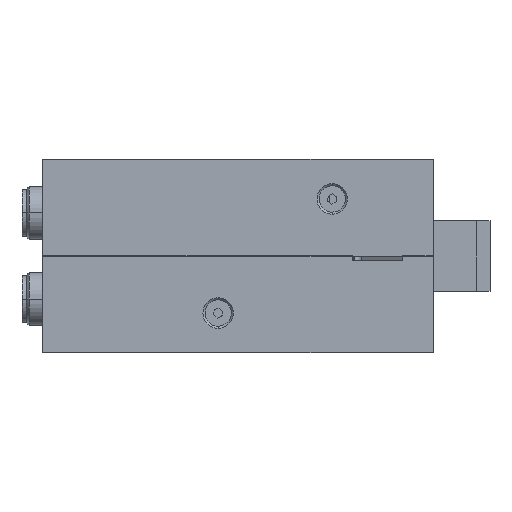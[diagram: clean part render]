
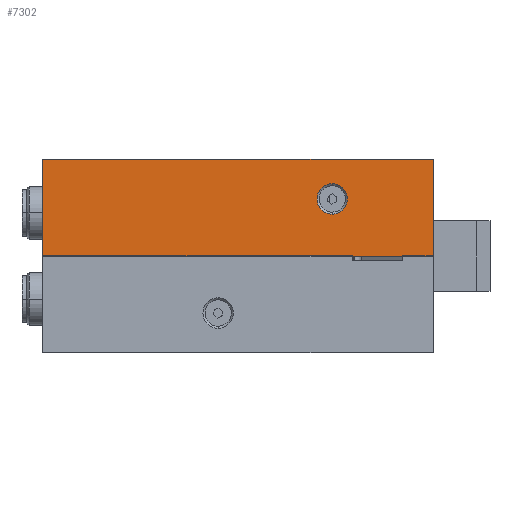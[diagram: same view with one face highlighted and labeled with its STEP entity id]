
A CAD part, front view. The second image highlights one B-rep face of the part: STEP entity #7302.
In plain terms, the highlighted planar face has unit normal (0, -1, 0).
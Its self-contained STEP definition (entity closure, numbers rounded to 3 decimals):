
#57 = DIRECTION ( 'NONE',  ( 1., 0., 0. ) ) ;
#767 = VECTOR ( 'NONE', #57, 1000. ) ;
#993 = VERTEX_POINT ( 'NONE', #11025 ) ;
#1017 = CARTESIAN_POINT ( 'NONE',  ( -54., -57.5, 33. ) ) ;
#1029 = CARTESIAN_POINT ( 'NONE',  ( 12., -57.5, 20.53 ) ) ;
#1660 = CARTESIAN_POINT ( 'NONE',  ( -54., -57.5, 11. ) ) ;
#2769 = LINE ( 'NONE', #1017, #767 ) ;
#2791 = ORIENTED_EDGE ( 'NONE', *, *, #10396, .T. ) ;
#3098 = ORIENTED_EDGE ( 'NONE', *, *, #12561, .F. ) ;
#3640 = PLANE ( 'NONE',  #7742 ) ;
#3719 = ORIENTED_EDGE ( 'NONE', *, *, #6435, .F. ) ;
#3887 = CARTESIAN_POINT ( 'NONE',  ( -54., -57.5, 33. ) ) ;
#4050 = CARTESIAN_POINT ( 'NONE',  ( 12., -57.5, 24. ) ) ;
#4226 = CIRCLE ( 'NONE', #9197, 3.47 ) ;
#4617 = DIRECTION ( 'NONE',  ( 0., 0., -1. ) ) ;
#4639 = VECTOR ( 'NONE', #8492, 1000. ) ;
#5050 = DIRECTION ( 'NONE',  ( 0., -1., 0. ) ) ;
#5216 = EDGE_LOOP ( 'NONE', ( #12504, #3098 ) ) ;
#5297 = DIRECTION ( 'NONE',  ( 0., -1., 0. ) ) ;
#5504 = CARTESIAN_POINT ( 'NONE',  ( -54., -57.5, 33. ) ) ;
#5594 = CIRCLE ( 'NONE', #8750, 3.47 ) ;
#5706 = VECTOR ( 'NONE', #4617, 1000. ) ;
#6145 = CARTESIAN_POINT ( 'NONE',  ( 12., -57.5, 24. ) ) ;
#6297 = VERTEX_POINT ( 'NONE', #9375 ) ;
#6322 = CARTESIAN_POINT ( 'NONE',  ( 35., -57.5, 33. ) ) ;
#6435 = EDGE_CURVE ( 'NONE', #11414, #8822, #9700, .T. ) ;
#6520 = VERTEX_POINT ( 'NONE', #6677 ) ;
#6563 = EDGE_CURVE ( 'NONE', #10611, #6297, #4226, .T. ) ;
#6626 = FACE_BOUND ( 'NONE', #5216, .T. ) ;
#6677 = CARTESIAN_POINT ( 'NONE',  ( -54., -57.5, 33. ) ) ;
#6779 = LINE ( 'NONE', #5504, #5706 ) ;
#7281 = EDGE_LOOP ( 'NONE', ( #3719, #9826, #2791, #11790 ) ) ;
#7302 = ADVANCED_FACE ( 'NONE', ( #6626, #7839 ), #3640, .F. ) ;
#7701 = CARTESIAN_POINT ( 'NONE',  ( 35., -57.5, 33. ) ) ;
#7742 = AXIS2_PLACEMENT_3D ( 'NONE', #3887, #10654, #7876 ) ;
#7839 = FACE_OUTER_BOUND ( 'NONE', #7281, .T. ) ;
#7876 = DIRECTION ( 'NONE',  ( 0., 0., 1. ) ) ;
#7951 = LINE ( 'NONE', #1660, #4639 ) ;
#8121 = DIRECTION ( 'NONE',  ( 0., 0., -1. ) ) ;
#8492 = DIRECTION ( 'NONE',  ( 1., 0., 0. ) ) ;
#8599 = EDGE_CURVE ( 'NONE', #993, #8822, #7951, .T. ) ;
#8651 = DIRECTION ( 'NONE',  ( 0., 0., -1. ) ) ;
#8750 = AXIS2_PLACEMENT_3D ( 'NONE', #6145, #5297, #8121 ) ;
#8822 = VERTEX_POINT ( 'NONE', #9720 ) ;
#9197 = AXIS2_PLACEMENT_3D ( 'NONE', #4050, #5050, #10890 ) ;
#9375 = CARTESIAN_POINT ( 'NONE',  ( 12., -57.5, 27.47 ) ) ;
#9470 = EDGE_CURVE ( 'NONE', #6520, #11414, #2769, .T. ) ;
#9700 = LINE ( 'NONE', #7701, #11381 ) ;
#9720 = CARTESIAN_POINT ( 'NONE',  ( 35., -57.5, 11. ) ) ;
#9826 = ORIENTED_EDGE ( 'NONE', *, *, #9470, .F. ) ;
#10396 = EDGE_CURVE ( 'NONE', #6520, #993, #6779, .T. ) ;
#10611 = VERTEX_POINT ( 'NONE', #1029 ) ;
#10654 = DIRECTION ( 'NONE',  ( 0., 1., 0. ) ) ;
#10890 = DIRECTION ( 'NONE',  ( 0., 0., -1. ) ) ;
#11025 = CARTESIAN_POINT ( 'NONE',  ( -54., -57.5, 11. ) ) ;
#11381 = VECTOR ( 'NONE', #8651, 1000. ) ;
#11414 = VERTEX_POINT ( 'NONE', #6322 ) ;
#11790 = ORIENTED_EDGE ( 'NONE', *, *, #8599, .T. ) ;
#12504 = ORIENTED_EDGE ( 'NONE', *, *, #6563, .F. ) ;
#12561 = EDGE_CURVE ( 'NONE', #6297, #10611, #5594, .T. ) ;
